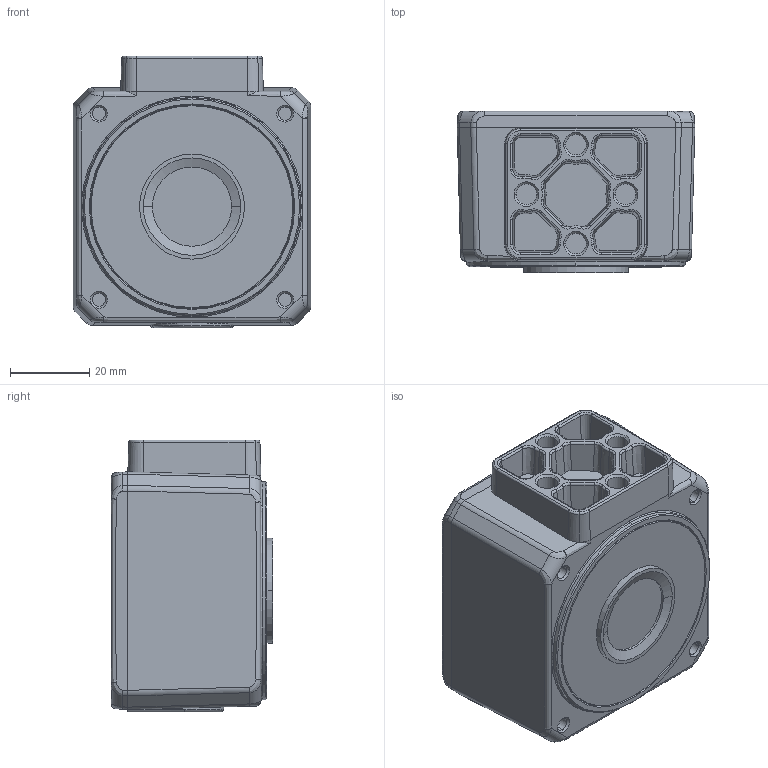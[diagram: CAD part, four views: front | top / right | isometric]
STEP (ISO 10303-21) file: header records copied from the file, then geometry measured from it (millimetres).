
FILE_DESCRIPTION((''),'2;1');
FILE_NAME('12345','2018-03-28T',('zhangruofan'),(''),'PRO/ENGINEER BY PARAMETRIC TECHNOLOGY CORPORATION, 2016100','PRO/ENGINEER BY PARAMETRIC TECHNOLOGY CORPORATION, 2016100','');
FILE_SCHEMA(('CONFIG_CONTROL_DESIGN'));
Products named in the file (1): 12345
Bounding box: 60 x 40.8 x 68.6 mm (x, y, z)
Surface area: 38074.4 mm2
Topology: 19 solids, 19 shells, 1120 faces, 2801 edges, 1784 vertices
Faces by surface type: plane 458, cylinder 327, bspline 147, cone 105, torus 59, extrusion 24
Entity records: 49288 total; most frequent: CARTESIAN_POINT 18829, ORIENTED_EDGE 5586, DIRECTION 4890, EDGE_CURVE 2793, AXIS2_PLACEMENT_3D 1890, VERTEX_POINT 1784, EDGE_LOOP 1217, FACE_OUTER_BOUND 1120
